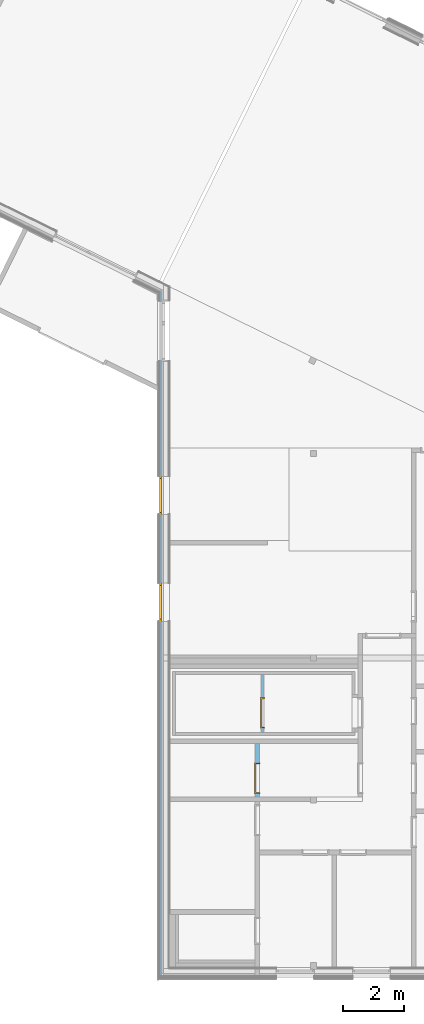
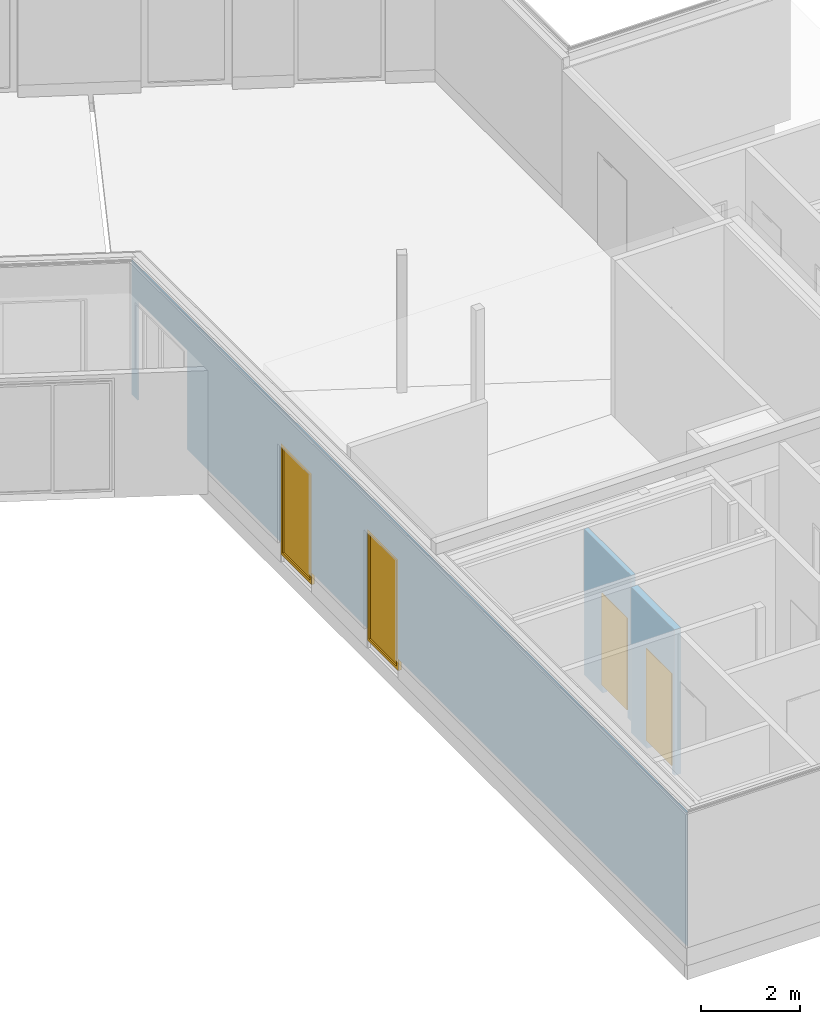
# One storey, part 8 of 23: 2 doors, 2 windows, 5 openings, plus 3 elements that do not belong to this part.
"""IFC4 building model written with IfcOpenShell, lengths in metres."""

from ifc_helpers import new_model, entity, si_unit, converted_unit, derived_unit, frame, frame_2d, origin, origin_with_axes, place, context, subcontext, project, spatial, polyline, rectangle, outline, extrude, closed_shell, open_shell, faceted_brep, surface_model, source, transform, mapped, material, type_object, element, fill, save


model = new_model("IFC4")

# Units and contexts
model_context = context("Model", 3, precision=1e-05, world=origin())
body_context = subcontext(model_context, "Body", "Model", "MODEL_VIEW")
ifc_project = project(units=[si_unit("LENGTHUNIT", "METRE"), si_unit("AREAUNIT", "SQUARE_METRE"), si_unit("VOLUMEUNIT", "CUBIC_METRE"), si_unit("MASSUNIT", "GRAM", prefix="KILO"), converted_unit("PLANEANGLEUNIT", "DEGREE", entity("IfcPlaneAngleMeasure", 0.0174532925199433), si_unit("PLANEANGLEUNIT", "RADIAN"), dimensions=[0, 0, 0, 0, 0, 0, 0]), derived_unit("THERMALTRANSMITTANCEUNIT", [(si_unit("POWERUNIT", "WATT"), 1), (si_unit("THERMODYNAMICTEMPERATUREUNIT", "KELVIN"), -1), (si_unit("LENGTHUNIT", "METRE"), -2)]), derived_unit("VOLUMETRICFLOWRATEUNIT", [(si_unit("LENGTHUNIT", "METRE"), 3), (converted_unit("TIMEUNIT", "hour", entity("IfcTimeMeasure", 3600.0), si_unit("TIMEUNIT", "SECOND"), dimensions=[0, 0, 1, 0, 0, 0, 0]), -1), (si_unit("LENGTHUNIT", "METRE"), -1)])], contexts=[model_context])

# Site, building, storey
site_placement = place(None, origin())
site = spatial("IfcSite", under=ifc_project, at=site_placement, Name="Psychiatrie Neubau Wunstorf", CompositionType="ELEMENT")
building_placement = place(site_placement, origin())
building = spatial("IfcBuilding", under=site, at=building_placement, Name="Neubau H1 Sozialzentrum", CompositionType="ELEMENT")
storey_placement = place(building_placement, frame((0.0, 0.0, 0.7)))
storey = spatial("IfcBuildingStorey", under=building, at=storey_placement, Name="H1 Ebene 0", CompositionType="ELEMENT", Elevation=0.7)

# Wall, openings, windows
ifc_material_1 = material(Name="WA-KL")
wall_1_placement = place(storey_placement, frame((-16.1745260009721, 3.92632275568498, 0.3), z_axis=(0.0, 0.0, 1.0), x_axis=(8.10204985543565e-17, 1.0, 0.0)))
wall_1 = element("IfcWall", 1, at=wall_1_placement, inside=storey, material=ifc_material_1, context=body_context, shape_type="SweptSolid", body=[
    extrude(outline(polyline([(0.0, -0.0239992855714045), (22.4509776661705, -0.0239992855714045), (22.4628106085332, 0.0), (0.0, 0.0), (0.0, -0.0239992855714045)])), frame((0.0, 0.0239992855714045, 0.0), z_axis=(0.0, 0.0, 1.0), x_axis=(1.0, 0.0, 0.0)), (0.0, 0.0, 1.0), 3.3),
])
opening_1_placement = place(wall_1_placement, frame((12.9339984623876, 0.0239992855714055, -0.5), z_axis=(0.0, -1.0, 0.0), x_axis=(0.0, 0.0, 1.0)))
opening_1 = element("IfcOpeningElement", 2, at=opening_1_placement, cuts=wall_1, Name="Fensteröffnung", ObjectType="Opening", context=body_context, shape_type="SweptSolid", body=[
    extrude(outline(polyline([(2.95, 1.25), (2.95, 0.0), (0.0, 0.0), (0.0, 1.25), (2.95, 1.25)])), origin_with_axes(), (0.0, 0.0, 1.0), 0.0239992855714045),
])
opening_2_placement = place(wall_1_placement, frame((16.4339984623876, 0.023999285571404, -0.5), z_axis=(0.0, -1.0, 0.0), x_axis=(0.0, 0.0, 1.0)))
opening_2 = element("IfcOpeningElement", 3, at=opening_2_placement, cuts=wall_1, Name="Fensteröffnung", ObjectType="Opening", context=body_context, shape_type="SweptSolid", body=[
    extrude(outline(polyline([(2.95, 1.25), (2.95, 0.0), (0.0, 0.0), (0.0, 1.25), (2.95, 1.25)])), origin_with_axes(), (0.0, 0.0, 1.0), 0.0239992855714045),
])
opening_3_placement = place(wall_1_placement, frame((20.2022309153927, 0.0, -0.3), z_axis=(0.0, 1.0, 0.0), x_axis=(0.0, 0.0, 1.0)))
element("IfcOpeningElement", 4, at=opening_3_placement, cuts=wall_1, Name="Türöffnung", ObjectType="Opening", context=body_context, shape_type="SweptSolid", body=[
    extrude(outline(polyline([(2.75, 1.9999724), (2.75, 0.0), (0.0, 0.0), (0.0, 1.9999724), (2.75, 1.9999724)])), origin_with_axes(), (0.0, 0.0, 1.0), 0.0239992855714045),
])
shared_shape_1 = source(origin_with_axes(), body_context, "Body", "SurfaceModel", [
    surface_model("IfcShellBasedSurfaceModel", [(1.24999999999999, -1.3957587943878e-06, 2.95), (1.24999999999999, -1.3957587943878e-06, 0.2), (1.17999999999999, -1.3957587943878e-06, 0.2), (1.17999999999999, -1.3957587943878e-06, 2.95), (1.24999999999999, 0.0699986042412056, 0.2), (1.24999999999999, 0.0699986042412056, 2.95), (1.17999999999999, 0.0699986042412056, 2.95), (1.17999999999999, 0.0699986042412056, 0.2)], [closed_shell([[[0, 1, 2, 3]], [[4, 5, 6, 7]], [[1, 0, 5, 4]], [[2, 1, 4, 7]], [[3, 2, 7, 6]], [[0, 3, 6, 5]]], orient=[[False], [False], [False], [False], [False], [False]])]),
    surface_model("IfcShellBasedSurfaceModel", [(0.0699999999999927, -1.3957587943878e-06, 2.95), (0.0699999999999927, -1.3957587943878e-06, 0.2), (0.0, -1.3957587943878e-06, 0.2), (0.0, -1.3957587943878e-06, 2.95), (0.0699999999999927, 0.0699986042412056, 0.2), (0.0699999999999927, 0.0699986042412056, 2.95), (0.0, 0.0699986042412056, 2.95), (0.0, 0.0699986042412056, 0.2)], [closed_shell([[[0, 1, 2, 3]], [[4, 5, 6, 7]], [[1, 0, 5, 4]], [[2, 1, 4, 7]], [[3, 2, 7, 6]], [[0, 3, 6, 5]]], orient=[[False], [False], [False], [False], [False], [False]])]),
    surface_model("IfcShellBasedSurfaceModel", [(1.17999999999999, -1.3957587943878e-06, 0.27), (1.17999999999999, -1.3957587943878e-06, 0.2), (0.0699999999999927, -1.3957587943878e-06, 0.2), (0.0699999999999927, -1.3957587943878e-06, 0.27), (1.17999999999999, 0.0699986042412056, 0.2), (1.17999999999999, 0.0699986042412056, 0.27), (0.0699999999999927, 0.0699986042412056, 0.27), (0.0699999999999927, 0.0699986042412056, 0.2)], [closed_shell([[[0, 1, 2, 3]], [[4, 5, 6, 7]], [[1, 0, 5, 4]], [[2, 1, 4, 7]], [[3, 2, 7, 6]], [[0, 3, 6, 5]]], orient=[[False], [False], [False], [False], [False], [False]])]),
    surface_model("IfcShellBasedSurfaceModel", [(1.17999999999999, -1.3957587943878e-06, 2.95), (1.17999999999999, -1.3957587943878e-06, 2.88), (0.0699999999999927, -1.3957587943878e-06, 2.88), (0.0699999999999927, -1.3957587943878e-06, 2.95), (1.17999999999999, 0.0699986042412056, 2.88), (1.17999999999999, 0.0699986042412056, 2.95), (0.0699999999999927, 0.0699986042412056, 2.95), (0.0699999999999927, 0.0699986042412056, 2.88)], [closed_shell([[[0, 1, 2, 3]], [[4, 5, 6, 7]], [[1, 0, 5, 4]], [[2, 1, 4, 7]], [[3, 2, 7, 6]], [[0, 3, 6, 5]]], orient=[[False], [False], [False], [False], [False], [False]])]),
    surface_model("IfcShellBasedSurfaceModel", [(1.17999999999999, 0.0349986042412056, 0.27), (0.0699999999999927, 0.0349986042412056, 0.27), (0.0699999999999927, 0.0349986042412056, 2.88), (1.17999999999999, 0.0349986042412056, 2.88)], [open_shell([[[0, 1, 2, 3]]], orient=[[False]])]),
])
window_1_placement = place(opening_1_placement, frame((0.0, 1.25, 0.0789986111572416), z_axis=(1.0, 0.0, 0.0), x_axis=(0.0, -1.0, -8.10204985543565e-17)))
window_1 = element("IfcWindow", 5, at=window_1_placement, inside=storey, Name="Fenster-SmartPart", OverallHeight=2.95, OverallWidth=1.25, PartitioningType="USERDEFINED", PredefinedType="WINDOW", context=body_context, shape_type="MappedRepresentation", body=[
    mapped(shared_shape_1, transform((0.0, 0.0, 0.0), x_axis=(1.0, 0.0, 0.0), y_axis=(0.0, 1.0, 0.0), z_axis=(0.0, 0.0, 1.0), scale=1.0)),
])
fill(opening_1, window_1)
shared_shape_2 = source(origin_with_axes(), body_context, "Body", "SurfaceModel", [
    surface_model("IfcShellBasedSurfaceModel", [(1.24999999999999, -1.3957587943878e-06, 2.95), (1.24999999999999, -1.3957587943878e-06, 0.2), (1.17999999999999, -1.3957587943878e-06, 0.2), (1.17999999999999, -1.3957587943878e-06, 2.95), (1.24999999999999, 0.0699986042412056, 0.2), (1.24999999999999, 0.0699986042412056, 2.95), (1.17999999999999, 0.0699986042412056, 2.95), (1.17999999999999, 0.0699986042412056, 0.2)], [closed_shell([[[0, 1, 2, 3]], [[4, 5, 6, 7]], [[1, 0, 5, 4]], [[2, 1, 4, 7]], [[3, 2, 7, 6]], [[0, 3, 6, 5]]], orient=[[False], [False], [False], [False], [False], [False]])]),
    surface_model("IfcShellBasedSurfaceModel", [(0.0699999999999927, -1.3957587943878e-06, 2.95), (0.0699999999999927, -1.3957587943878e-06, 0.2), (0.0, -1.3957587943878e-06, 0.2), (0.0, -1.3957587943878e-06, 2.95), (0.0699999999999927, 0.0699986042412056, 0.2), (0.0699999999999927, 0.0699986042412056, 2.95), (0.0, 0.0699986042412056, 2.95), (0.0, 0.0699986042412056, 0.2)], [closed_shell([[[0, 1, 2, 3]], [[4, 5, 6, 7]], [[1, 0, 5, 4]], [[2, 1, 4, 7]], [[3, 2, 7, 6]], [[0, 3, 6, 5]]], orient=[[False], [False], [False], [False], [False], [False]])]),
    surface_model("IfcShellBasedSurfaceModel", [(1.17999999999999, -1.3957587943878e-06, 0.27), (1.17999999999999, -1.3957587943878e-06, 0.2), (0.0699999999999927, -1.3957587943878e-06, 0.2), (0.0699999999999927, -1.3957587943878e-06, 0.27), (1.17999999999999, 0.0699986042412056, 0.2), (1.17999999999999, 0.0699986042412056, 0.27), (0.0699999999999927, 0.0699986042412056, 0.27), (0.0699999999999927, 0.0699986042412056, 0.2)], [closed_shell([[[0, 1, 2, 3]], [[4, 5, 6, 7]], [[1, 0, 5, 4]], [[2, 1, 4, 7]], [[3, 2, 7, 6]], [[0, 3, 6, 5]]], orient=[[False], [False], [False], [False], [False], [False]])]),
    surface_model("IfcShellBasedSurfaceModel", [(1.17999999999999, -1.3957587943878e-06, 2.95), (1.17999999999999, -1.3957587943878e-06, 2.88), (0.0699999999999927, -1.3957587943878e-06, 2.88), (0.0699999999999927, -1.3957587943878e-06, 2.95), (1.17999999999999, 0.0699986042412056, 2.88), (1.17999999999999, 0.0699986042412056, 2.95), (0.0699999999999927, 0.0699986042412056, 2.95), (0.0699999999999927, 0.0699986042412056, 2.88)], [closed_shell([[[0, 1, 2, 3]], [[4, 5, 6, 7]], [[1, 0, 5, 4]], [[2, 1, 4, 7]], [[3, 2, 7, 6]], [[0, 3, 6, 5]]], orient=[[False], [False], [False], [False], [False], [False]])]),
    surface_model("IfcShellBasedSurfaceModel", [(1.17999999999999, 0.0349986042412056, 0.27), (0.0699999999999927, 0.0349986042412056, 0.27), (0.0699999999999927, 0.0349986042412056, 2.88), (1.17999999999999, 0.0349986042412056, 2.88)], [open_shell([[[0, 1, 2, 3]]], orient=[[False]])]),
])
window_2_placement = place(opening_2_placement, frame((0.0, 1.25, 0.0789986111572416), z_axis=(1.0, 0.0, 0.0), x_axis=(0.0, -1.0, -8.10204985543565e-17)))
window_2 = element("IfcWindow", 6, at=window_2_placement, inside=storey, Name="Fenster-SmartPart", OverallHeight=2.95, OverallWidth=1.25, PartitioningType="USERDEFINED", PredefinedType="WINDOW", context=body_context, shape_type="MappedRepresentation", body=[
    mapped(shared_shape_2, transform((0.0, 0.0, 0.0), x_axis=(1.0, 0.0, 0.0), y_axis=(0.0, 1.0, 0.0), z_axis=(0.0, 0.0, 1.0), scale=1.0)),
])
fill(opening_2, window_2)

# Wall, opening, door
ifc_material_2 = material(Name="WI-IW")
wall_2_placement = place(storey_placement, frame((-12.9113693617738, 9.86239268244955, -0.2), z_axis=(0.0, 0.0, 1.0), x_axis=(0.0, 1.0, 0.0)))
wall_2 = element("IfcWall", 7, at=wall_2_placement, inside=storey, material=ifc_material_2, context=body_context, shape_type="SweptSolid", body=[
    extrude(outline(polyline([(0.0, -0.15), (1.74996779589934, -0.15), (1.74996953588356, 0.0), (1.11000000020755, 0.0), (0.0, 0.0), (0.0, -0.15)])), frame((0.0, 0.15, 0.0), z_axis=(0.0, 0.0, 1.0), x_axis=(1.0, 0.0, 0.0)), (0.0, 0.0, 1.0), 3.6),
])
opening_4_placement = place(wall_2_placement, frame((0.0999999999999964, 0.0, 0.0), z_axis=(0.0, 1.0, 0.0), x_axis=(0.0, 0.0, 1.0)))
opening_4 = element("IfcOpeningElement", 8, at=opening_4_placement, cuts=wall_2, Name="Türöffnung", ObjectType="Opening", context=body_context, shape_type="SweptSolid", body=[
    extrude(outline(polyline([(2.46, 1.01000000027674), (2.46, 0.0), (0.0, 0.0), (0.0, 1.01000000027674), (2.46, 1.01000000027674)])), origin_with_axes(), (0.0, 0.0, 1.0), 0.15),
])
ifc_material_3 = material(Name="TI-1F-UZ-ZK")
door_type_1 = type_object("IfcDoorType", Name="SMT", OperationType="SINGLE_SWING_RIGHT", ParameterTakesPrecedence=False, PredefinedType="DOOR")
shared_shape_3 = source(origin_with_axes(), body_context, "Body", "Brep", [
    faceted_brep([(0.0, -0.0150000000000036, 2.46), (0.0400000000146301, -0.0150000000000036, 2.46), (0.0400000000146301, -0.0150000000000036, 0.2), (0.0, -0.0150000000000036, 0.2), (0.0, 0.164999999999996, 0.2), (0.0400000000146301, 0.164999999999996, 0.2), (0.0400000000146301, 0.164999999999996, 2.46), (0.0, 0.164999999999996, 2.46)], [[[0, 1, 2, 3]], [[4, 5, 6, 7]], [[3, 4, 7, 0]], [[2, 5, 4, 3]], [[1, 6, 5, 2]], [[0, 7, 6, 1]]], orient=[[False], [False], [False], [False], [False], [False]]),
    faceted_brep([(0.0, -0.0150000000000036, 2.475), (0.0, -0.0150000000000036, 0.2), (-0.0150000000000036, -0.0150000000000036, 0.2), (-0.0150000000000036, -0.0150000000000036, 2.475), (0.0, 0.0, 0.2), (0.0, 0.0, 2.475), (-0.0150000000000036, 0.0, 2.475), (-0.0150000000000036, 0.0, 0.2)], [[[0, 1, 2, 3]], [[4, 5, 6, 7]], [[1, 0, 5, 4]], [[2, 1, 4, 7]], [[3, 2, 7, 6]], [[0, 3, 6, 5]]], orient=[[False], [False], [False], [False], [False], [False]]),
    faceted_brep([(0.0, 0.149999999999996, 2.475), (0.0, 0.149999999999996, 0.2), (-0.0150000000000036, 0.149999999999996, 0.2), (-0.0150000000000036, 0.149999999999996, 2.475), (0.0, 0.164999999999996, 0.2), (0.0, 0.164999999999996, 2.475), (-0.0150000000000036, 0.164999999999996, 2.475), (-0.0150000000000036, 0.164999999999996, 0.2)], [[[0, 1, 2, 3]], [[4, 5, 6, 7]], [[1, 0, 5, 4]], [[2, 1, 4, 7]], [[3, 2, 7, 6]], [[0, 3, 6, 5]]], orient=[[False], [False], [False], [False], [False], [False]]),
    faceted_brep([(0.970000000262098, -0.0150000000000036, 2.46), (1.01000000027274, -0.0150000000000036, 2.46), (1.01000000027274, -0.0150000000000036, 0.2), (0.970000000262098, -0.0150000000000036, 0.2), (0.970000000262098, 0.164999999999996, 0.2), (1.01000000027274, 0.164999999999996, 0.2), (1.01000000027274, 0.164999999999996, 2.46), (0.970000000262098, 0.164999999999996, 2.46)], [[[0, 1, 2, 3]], [[4, 5, 6, 7]], [[3, 4, 7, 0]], [[2, 5, 4, 3]], [[1, 6, 5, 2]], [[0, 7, 6, 1]]], orient=[[False], [False], [False], [False], [False], [False]]),
    faceted_brep([(1.01000000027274, -0.0150000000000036, 2.475), (1.02500000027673, -0.0150000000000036, 2.475), (1.02500000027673, -0.0150000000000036, 0.2), (1.01000000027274, -0.0150000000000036, 0.2), (1.01000000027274, 0.0, 0.2), (1.02500000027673, 0.0, 0.2), (1.02500000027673, 0.0, 2.475), (1.01000000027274, 0.0, 2.475)], [[[0, 1, 2, 3]], [[4, 5, 6, 7]], [[3, 4, 7, 0]], [[2, 5, 4, 3]], [[1, 6, 5, 2]], [[0, 7, 6, 1]]], orient=[[False], [False], [False], [False], [False], [False]]),
    faceted_brep([(1.01000000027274, 0.149999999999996, 2.475), (1.02500000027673, 0.149999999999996, 2.475), (1.02500000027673, 0.149999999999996, 0.2), (1.01000000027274, 0.149999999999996, 0.2), (1.01000000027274, 0.164999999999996, 0.2), (1.02500000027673, 0.164999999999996, 0.2), (1.02500000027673, 0.164999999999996, 2.475), (1.01000000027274, 0.164999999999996, 2.475)], [[[0, 1, 2, 3]], [[4, 5, 6, 7]], [[3, 4, 7, 0]], [[2, 5, 4, 3]], [[1, 6, 5, 2]], [[0, 7, 6, 1]]], orient=[[False], [False], [False], [False], [False], [False]]),
    faceted_brep([(0.0400000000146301, -0.0150000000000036, 2.46), (0.970000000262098, -0.0150000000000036, 2.46), (0.970000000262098, -0.0150000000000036, 2.42), (0.0400000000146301, -0.0150000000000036, 2.42), (0.0400000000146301, 0.164999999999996, 2.42), (0.970000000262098, 0.164999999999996, 2.42), (0.970000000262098, 0.164999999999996, 2.46), (0.0400000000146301, 0.164999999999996, 2.46)], [[[0, 1, 2, 3]], [[4, 5, 6, 7]], [[3, 4, 7, 0]], [[2, 5, 4, 3]], [[1, 6, 5, 2]], [[0, 7, 6, 1]]], orient=[[False], [False], [False], [False], [False], [False]]),
    faceted_brep([(0.0, -0.0150000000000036, 2.475), (1.01000000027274, -0.0150000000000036, 2.475), (1.01000000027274, -0.0150000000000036, 2.46), (0.0, -0.0150000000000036, 2.46), (0.0, 0.0, 2.46), (1.01000000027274, 0.0, 2.46), (1.01000000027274, 0.0, 2.475), (0.0, 0.0, 2.475)], [[[0, 1, 2, 3]], [[4, 5, 6, 7]], [[3, 4, 7, 0]], [[2, 5, 4, 3]], [[1, 6, 5, 2]], [[0, 7, 6, 1]]], orient=[[False], [False], [False], [False], [False], [False]]),
    faceted_brep([(0.0, 0.149999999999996, 2.475), (1.01000000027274, 0.149999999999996, 2.475), (1.01000000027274, 0.149999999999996, 2.46), (0.0, 0.149999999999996, 2.46), (0.0, 0.164999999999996, 2.46), (1.01000000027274, 0.164999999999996, 2.46), (1.01000000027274, 0.164999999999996, 2.475), (0.0, 0.164999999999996, 2.475)], [[[0, 1, 2, 3]], [[4, 5, 6, 7]], [[3, 4, 7, 0]], [[2, 5, 4, 3]], [[1, 6, 5, 2]], [[0, 7, 6, 1]]], orient=[[False], [False], [False], [False], [False], [False]]),
    faceted_brep([(0.0250000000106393, 0.115999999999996, 2.435), (0.985000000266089, 0.115999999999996, 2.435), (0.985000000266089, 0.115999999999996, 0.2), (0.0250000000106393, 0.115999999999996, 0.2), (0.0250000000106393, 0.165999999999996, 0.2), (0.985000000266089, 0.165999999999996, 0.2), (0.985000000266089, 0.165999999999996, 2.435), (0.0250000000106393, 0.165999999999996, 2.435)], [[[0, 1, 2, 3]], [[4, 5, 6, 7]], [[3, 4, 7, 0]], [[2, 5, 4, 3]], [[1, 6, 5, 2]], [[0, 7, 6, 1]]], orient=[[False], [False], [False], [False], [False], [False]]),
])
door_1_placement = place(opening_4_placement, frame((0.0, 0.0, 0.0), z_axis=(1.0, 0.0, 0.0), x_axis=(0.0, 1.0, 0.0)))
door_1 = element("IfcDoor", 9, at=door_1_placement, inside=storey, type_object=door_type_1, material=ifc_material_3, Name="SMT", OverallHeight=2.46, OverallWidth=1.01, context=body_context, shape_type="MappedRepresentation", body=[
    mapped(shared_shape_3, transform((0.0, 0.0, 0.0), x_axis=(1.0, 0.0, 0.0), y_axis=(0.0, 1.0, 0.0), z_axis=(0.0, 0.0, 1.0), scale=1.0)),
])
fill(opening_4, door_1)

ifc_material_4 = material(Name="WI-IW")
wall_3_placement = place(storey_placement, frame((-12.7626267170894, 11.962321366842, -0.2), z_axis=(0.0, 0.0, 1.0), x_axis=(0.0, 1.0, 0.0)))
wall_3 = element("IfcWall", 10, at=wall_3_placement, inside=storey, material=ifc_material_4, context=body_context, shape_type="SweptSolid", body=[
    extrude(rectangle(XDim=1.89991577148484, YDim=0.1, at=frame_2d((0.94995788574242, 0.05), x_axis=(1.0, 0.0))), origin_with_axes(), (0.0, 0.0, 1.0), 3.6),
])
opening_5_placement = place(wall_3_placement, frame((1.14696378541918, 0.1, 0.0), z_axis=(0.0, -1.0, 0.0), x_axis=(0.0, 0.0, 1.0)))
opening_5 = element("IfcOpeningElement", 11, at=opening_5_placement, cuts=wall_3, Name="Türöffnung", ObjectType="Opening", context=body_context, shape_type="SweptSolid", body=[
    extrude(outline(polyline([(2.46, 1.0), (2.46, 0.0), (0.0, 0.0), (0.0, 1.0), (2.46, 1.0)])), origin_with_axes(), (0.0, 0.0, 1.0), 0.1),
])
ifc_material_5 = material(Name="TI-1F-UZ-ZK")
door_type_2 = type_object("IfcDoorType", Name="SMT", OperationType="SINGLE_SWING_RIGHT", ParameterTakesPrecedence=False, PredefinedType="DOOR")
shared_shape_4 = source(origin_with_axes(), body_context, "Body", "Brep", [
    faceted_brep([(0.0, -0.0150000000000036, 2.46), (0.0399999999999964, -0.0150000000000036, 2.46), (0.0399999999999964, -0.0150000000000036, 0.2), (0.0, -0.0150000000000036, 0.2), (0.0, 0.114999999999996, 0.2), (0.0399999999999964, 0.114999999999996, 0.2), (0.0399999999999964, 0.114999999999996, 2.46), (0.0, 0.114999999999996, 2.46)], [[[0, 1, 2, 3]], [[4, 5, 6, 7]], [[3, 4, 7, 0]], [[2, 5, 4, 3]], [[1, 6, 5, 2]], [[0, 7, 6, 1]]], orient=[[False], [False], [False], [False], [False], [False]]),
    faceted_brep([(0.0, -0.0150000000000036, 2.475), (0.0, -0.0150000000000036, 0.2), (-0.0150000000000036, -0.0150000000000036, 0.2), (-0.0150000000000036, -0.0150000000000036, 2.475), (0.0, 0.0, 0.2), (0.0, 0.0, 2.475), (-0.0150000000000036, 0.0, 2.475), (-0.0150000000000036, 0.0, 0.2)], [[[0, 1, 2, 3]], [[4, 5, 6, 7]], [[1, 0, 5, 4]], [[2, 1, 4, 7]], [[3, 2, 7, 6]], [[0, 3, 6, 5]]], orient=[[False], [False], [False], [False], [False], [False]]),
    faceted_brep([(0.0, 0.0999999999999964, 2.475), (0.0, 0.0999999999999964, 0.2), (-0.0150000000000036, 0.0999999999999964, 0.2), (-0.0150000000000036, 0.0999999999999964, 2.475), (0.0, 0.114999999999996, 0.2), (0.0, 0.114999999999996, 2.475), (-0.0150000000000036, 0.114999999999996, 2.475), (-0.0150000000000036, 0.114999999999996, 0.2)], [[[0, 1, 2, 3]], [[4, 5, 6, 7]], [[1, 0, 5, 4]], [[2, 1, 4, 7]], [[3, 2, 7, 6]], [[0, 3, 6, 5]]], orient=[[False], [False], [False], [False], [False], [False]]),
    faceted_brep([(0.959999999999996, -0.0150000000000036, 2.46), (0.999999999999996, -0.0150000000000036, 2.46), (0.999999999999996, -0.0150000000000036, 0.2), (0.959999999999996, -0.0150000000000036, 0.2), (0.959999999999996, 0.114999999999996, 0.2), (0.999999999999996, 0.114999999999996, 0.2), (0.999999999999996, 0.114999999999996, 2.46), (0.959999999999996, 0.114999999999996, 2.46)], [[[0, 1, 2, 3]], [[4, 5, 6, 7]], [[3, 4, 7, 0]], [[2, 5, 4, 3]], [[1, 6, 5, 2]], [[0, 7, 6, 1]]], orient=[[False], [False], [False], [False], [False], [False]]),
    faceted_brep([(0.999999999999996, -0.0150000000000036, 2.475), (1.015, -0.0150000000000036, 2.475), (1.015, -0.0150000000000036, 0.2), (0.999999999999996, -0.0150000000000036, 0.2), (0.999999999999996, 0.0, 0.2), (1.015, 0.0, 0.2), (1.015, 0.0, 2.475), (0.999999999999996, 0.0, 2.475)], [[[0, 1, 2, 3]], [[4, 5, 6, 7]], [[3, 4, 7, 0]], [[2, 5, 4, 3]], [[1, 6, 5, 2]], [[0, 7, 6, 1]]], orient=[[False], [False], [False], [False], [False], [False]]),
    faceted_brep([(0.999999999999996, 0.0999999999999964, 2.475), (1.015, 0.0999999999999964, 2.475), (1.015, 0.0999999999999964, 0.2), (0.999999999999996, 0.0999999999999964, 0.2), (0.999999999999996, 0.114999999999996, 0.2), (1.015, 0.114999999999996, 0.2), (1.015, 0.114999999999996, 2.475), (0.999999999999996, 0.114999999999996, 2.475)], [[[0, 1, 2, 3]], [[4, 5, 6, 7]], [[3, 4, 7, 0]], [[2, 5, 4, 3]], [[1, 6, 5, 2]], [[0, 7, 6, 1]]], orient=[[False], [False], [False], [False], [False], [False]]),
    faceted_brep([(0.0399999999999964, -0.0150000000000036, 2.46), (0.959999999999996, -0.0150000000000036, 2.46), (0.959999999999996, -0.0150000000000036, 2.42), (0.0399999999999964, -0.0150000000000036, 2.42), (0.0399999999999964, 0.114999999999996, 2.42), (0.959999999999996, 0.114999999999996, 2.42), (0.959999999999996, 0.114999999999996, 2.46), (0.0399999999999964, 0.114999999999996, 2.46)], [[[0, 1, 2, 3]], [[4, 5, 6, 7]], [[3, 4, 7, 0]], [[2, 5, 4, 3]], [[1, 6, 5, 2]], [[0, 7, 6, 1]]], orient=[[False], [False], [False], [False], [False], [False]]),
    faceted_brep([(0.0, -0.0150000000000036, 2.475), (0.999999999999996, -0.0150000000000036, 2.475), (0.999999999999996, -0.0150000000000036, 2.46), (0.0, -0.0150000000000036, 2.46), (0.0, 0.0, 2.46), (0.999999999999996, 0.0, 2.46), (0.999999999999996, 0.0, 2.475), (0.0, 0.0, 2.475)], [[[0, 1, 2, 3]], [[4, 5, 6, 7]], [[3, 4, 7, 0]], [[2, 5, 4, 3]], [[1, 6, 5, 2]], [[0, 7, 6, 1]]], orient=[[False], [False], [False], [False], [False], [False]]),
    faceted_brep([(0.0, 0.0999999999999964, 2.475), (0.999999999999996, 0.0999999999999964, 2.475), (0.999999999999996, 0.0999999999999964, 2.46), (0.0, 0.0999999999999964, 2.46), (0.0, 0.114999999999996, 2.46), (0.999999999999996, 0.114999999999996, 2.46), (0.999999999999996, 0.114999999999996, 2.475), (0.0, 0.114999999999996, 2.475)], [[[0, 1, 2, 3]], [[4, 5, 6, 7]], [[3, 4, 7, 0]], [[2, 5, 4, 3]], [[1, 6, 5, 2]], [[0, 7, 6, 1]]], orient=[[False], [False], [False], [False], [False], [False]]),
    faceted_brep([(0.0249999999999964, 0.0659999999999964, 2.435), (0.974999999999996, 0.0659999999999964, 2.435), (0.974999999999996, 0.0659999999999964, 0.2), (0.0249999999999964, 0.0659999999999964, 0.2), (0.0249999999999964, 0.115999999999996, 0.2), (0.974999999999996, 0.115999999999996, 0.2), (0.974999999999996, 0.115999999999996, 2.435), (0.0249999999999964, 0.115999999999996, 2.435)], [[[0, 1, 2, 3]], [[4, 5, 6, 7]], [[3, 4, 7, 0]], [[2, 5, 4, 3]], [[1, 6, 5, 2]], [[0, 7, 6, 1]]], orient=[[False], [False], [False], [False], [False], [False]]),
])
door_2_placement = place(opening_5_placement, frame((0.0, 1.0, 0.1), z_axis=(1.0, 0.0, 0.0), x_axis=(0.0, -1.0, 0.0)))
door_2 = element("IfcDoor", 12, at=door_2_placement, inside=storey, type_object=door_type_2, material=ifc_material_5, Name="SMT", OverallHeight=2.46, OverallWidth=1.0, context=body_context, shape_type="MappedRepresentation", body=[
    mapped(shared_shape_4, transform((0.0, 0.0, 0.0), x_axis=(1.0, 0.0, 0.0), y_axis=(0.0, 1.0, 0.0), z_axis=(0.0, 0.0, 1.0), scale=1.0)),
])
fill(opening_5, door_2)

save(model, "model.ifc")
